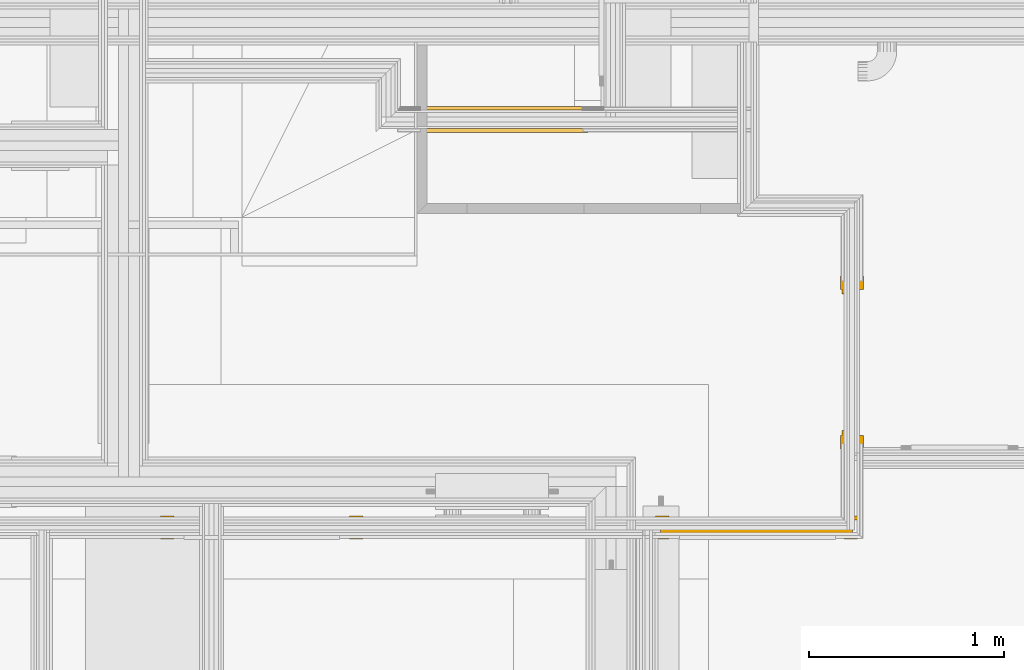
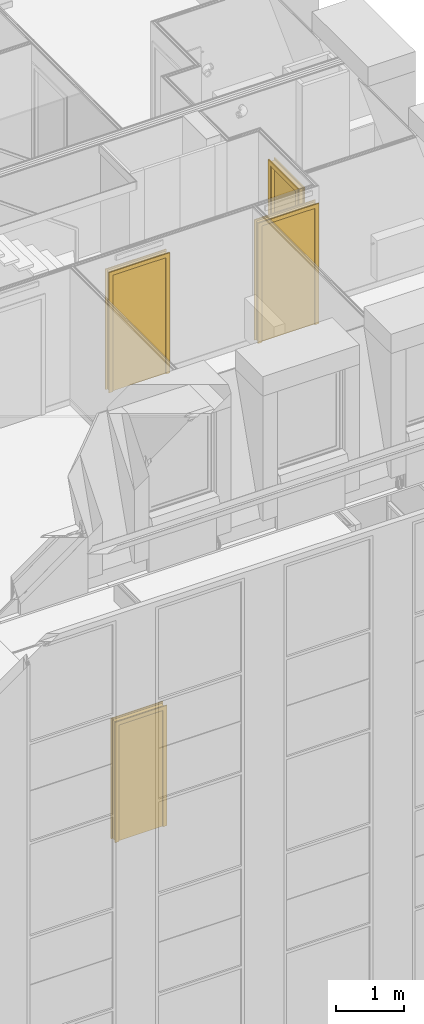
# One storey, part 128 of 169: 4 doors.
"""IFC2X3 building model written with IfcOpenShell, lengths in metres."""

from ifc_helpers import new_model, entity, si_unit, converted_unit, derived_unit, money_unit, direction, frame, origin_with_axes, place, context, subcontext, project, spatial, faceted_brep, material, type_object, element, save


model = new_model("IFC2X3")

# Units and contexts
model_context = context("Model", 3, precision=1e-05, world=origin_with_axes(), true_north=direction((0.0, 1.0)))
body_context = subcontext(model_context, "Body", "Model", "MODEL_VIEW", scale=1.0)
ifc_project = project(units=[si_unit("LENGTHUNIT", "METRE"), si_unit("AREAUNIT", "SQUARE_METRE"), si_unit("VOLUMEUNIT", "CUBIC_METRE"), si_unit("ABSORBEDDOSEUNIT", "GRAY"), si_unit("AMOUNTOFSUBSTANCEUNIT", "MOLE"), si_unit("DOSEEQUIVALENTUNIT", "SIEVERT"), si_unit("ELECTRICCAPACITANCEUNIT", "FARAD"), si_unit("ELECTRICCHARGEUNIT", "COULOMB"), si_unit("ELECTRICCONDUCTANCEUNIT", "SIEMENS"), si_unit("ELECTRICCURRENTUNIT", "AMPERE"), si_unit("ELECTRICRESISTANCEUNIT", "OHM"), si_unit("ELECTRICVOLTAGEUNIT", "VOLT"), si_unit("ENERGYUNIT", "JOULE"), si_unit("FORCEUNIT", "NEWTON"), si_unit("FREQUENCYUNIT", "HERTZ"), si_unit("ILLUMINANCEUNIT", "LUX"), si_unit("INDUCTANCEUNIT", "HENRY"), si_unit("LUMINOUSFLUXUNIT", "LUMEN"), si_unit("LUMINOUSINTENSITYUNIT", "CANDELA"), si_unit("MAGNETICFLUXDENSITYUNIT", "TESLA"), si_unit("MAGNETICFLUXUNIT", "WEBER"), si_unit("MASSUNIT", "GRAM"), converted_unit("PLANEANGLEUNIT", "degree", entity("IfcReal", 0.0174532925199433), si_unit("PLANEANGLEUNIT", "RADIAN"), dimensions=[0, 0, 0, 0, 0, 0, 0]), si_unit("POWERUNIT", "WATT"), si_unit("PRESSUREUNIT", "PASCAL"), si_unit("RADIOACTIVITYUNIT", "BECQUEREL"), si_unit("SOLIDANGLEUNIT", "STERADIAN"), si_unit("THERMODYNAMICTEMPERATUREUNIT", "KELVIN"), si_unit("TIMEUNIT", "SECOND"), derived_unit("ACCELERATIONUNIT", [(si_unit("LENGTHUNIT", "METRE"), 1), (si_unit("TIMEUNIT", "SECOND"), -2)]), derived_unit("ANGULARVELOCITYUNIT", [(converted_unit("PLANEANGLEUNIT", "degree", entity("IfcReal", 0.0174532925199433), si_unit("PLANEANGLEUNIT", "RADIAN"), dimensions=[0, 0, 0, 0, 0, 0, 0]), 1), (si_unit("TIMEUNIT", "SECOND"), -1)]), derived_unit("CURVATUREUNIT", [(converted_unit("PLANEANGLEUNIT", "degree", entity("IfcReal", 0.0174532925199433), si_unit("PLANEANGLEUNIT", "RADIAN"), dimensions=[0, 0, 0, 0, 0, 0, 0]), 1), (si_unit("LENGTHUNIT", "METRE"), -1)]), derived_unit("DYNAMICVISCOSITYUNIT", [(si_unit("PRESSUREUNIT", "PASCAL"), 1), (si_unit("TIMEUNIT", "SECOND"), 1)]), derived_unit("HEATFLUXDENSITYUNIT", [(si_unit("POWERUNIT", "WATT"), 1), (si_unit("LENGTHUNIT", "METRE"), -2)]), derived_unit("HEATINGVALUEUNIT", [(si_unit("ENERGYUNIT", "JOULE"), 1), (si_unit("MASSUNIT", "GRAM"), -1)]), derived_unit("INTEGERCOUNTRATEUNIT", [(si_unit("TIMEUNIT", "SECOND"), -1)]), derived_unit("IONCONCENTRATIONUNIT", [(si_unit("MASSUNIT", "GRAM"), 1), (si_unit("VOLUMEUNIT", "CUBIC_METRE"), -1)]), derived_unit("ISOTHERMALMOISTURECAPACITYUNIT", [(si_unit("VOLUMEUNIT", "CUBIC_METRE"), 1), (si_unit("MASSUNIT", "GRAM"), -1)]), derived_unit("KINEMATICVISCOSITYUNIT", [(si_unit("AREAUNIT", "SQUARE_METRE"), 1), (si_unit("TIMEUNIT", "SECOND"), -1)]), derived_unit("LINEARFORCEUNIT", [(si_unit("FORCEUNIT", "NEWTON"), 1), (si_unit("LENGTHUNIT", "METRE"), -1)]), derived_unit("LINEARMOMENTUNIT", [(si_unit("FORCEUNIT", "NEWTON"), 1), (si_unit("LENGTHUNIT", "METRE"), -1)]), derived_unit("LINEARSTIFFNESSUNIT", [(si_unit("FORCEUNIT", "NEWTON"), 1), (si_unit("LENGTHUNIT", "METRE"), -1)]), derived_unit("LINEARVELOCITYUNIT", [(si_unit("LENGTHUNIT", "METRE"), 1), (si_unit("TIMEUNIT", "SECOND"), -1)]), derived_unit("LUMINOUSINTENSITYDISTRIBUTIONUNIT", [(si_unit("LUMINOUSINTENSITYUNIT", "CANDELA"), 1), (si_unit("LUMINOUSFLUXUNIT", "LUMEN"), -1)]), derived_unit("MASSDENSITYUNIT", [(si_unit("MASSUNIT", "GRAM"), 1), (si_unit("VOLUMEUNIT", "CUBIC_METRE"), -1)]), derived_unit("MASSFLOWRATEUNIT", [(si_unit("MASSUNIT", "GRAM"), 1), (si_unit("TIMEUNIT", "SECOND"), -1)]), derived_unit("MASSPERLENGTHUNIT", [(si_unit("MASSUNIT", "GRAM"), 1), (si_unit("LENGTHUNIT", "METRE"), -1)]), derived_unit("MODULUSOFELASTICITYUNIT", [(si_unit("FORCEUNIT", "NEWTON"), 1), (si_unit("AREAUNIT", "SQUARE_METRE"), -1)]), derived_unit("MODULUSOFLINEARSUBGRADEREACTIONUNIT", [(si_unit("FORCEUNIT", "NEWTON"), 1), (si_unit("LENGTHUNIT", "METRE"), -2)]), derived_unit("MODULUSOFROTATIONALSUBGRADEREACTIONUNIT", [(si_unit("FORCEUNIT", "NEWTON"), 1), (si_unit("LENGTHUNIT", "METRE"), 1)]), derived_unit("MODULUSOFSUBGRADEREACTIONUNIT", [(si_unit("FORCEUNIT", "NEWTON"), 1), (si_unit("VOLUMEUNIT", "CUBIC_METRE"), -1)]), derived_unit("MOISTUREDIFFUSIVITYUNIT", [(si_unit("VOLUMEUNIT", "CUBIC_METRE"), 1), (si_unit("TIMEUNIT", "SECOND"), -1)]), derived_unit("MOLECULARWEIGHTUNIT", [(si_unit("MASSUNIT", "GRAM"), 1), (si_unit("AMOUNTOFSUBSTANCEUNIT", "MOLE"), -1)]), derived_unit("PLANARFORCEUNIT", [(si_unit("FORCEUNIT", "NEWTON"), 1), (si_unit("LENGTHUNIT", "METRE"), -2)]), derived_unit("ROTATIONALFREQUENCYUNIT", [(si_unit("TIMEUNIT", "SECOND"), -1)]), derived_unit("ROTATIONALMASSUNIT", [(si_unit("MASSUNIT", "GRAM"), 1), (si_unit("LENGTHUNIT", "METRE"), 2)]), derived_unit("ROTATIONALSTIFFNESSUNIT", [(si_unit("FORCEUNIT", "NEWTON"), 1), (si_unit("LENGTHUNIT", "METRE"), 1), (converted_unit("PLANEANGLEUNIT", "degree", entity("IfcReal", 0.0174532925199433), si_unit("PLANEANGLEUNIT", "RADIAN"), dimensions=[0, 0, 0, 0, 0, 0, 0]), -1)]), derived_unit("SECTIONAREAINTEGRALUNIT", [(si_unit("LENGTHUNIT", "METRE"), 5)]), derived_unit("SECTIONMODULUSUNIT", [(si_unit("LENGTHUNIT", "METRE"), 3)]), derived_unit("SHEARMODULUSUNIT", [(si_unit("FORCEUNIT", "NEWTON"), 1), (si_unit("AREAUNIT", "SQUARE_METRE"), -1)]), derived_unit("SOUNDPOWERUNIT", [(si_unit("ENERGYUNIT", "JOULE"), 1), (si_unit("TIMEUNIT", "SECOND"), -1)]), derived_unit("SPECIFICHEATCAPACITYUNIT", [(si_unit("FORCEUNIT", "NEWTON"), 1), (si_unit("MASSUNIT", "GRAM"), -1), (si_unit("THERMODYNAMICTEMPERATUREUNIT", "KELVIN"), -1)]), derived_unit("TEMPERATUREGRADIENTUNIT", [(si_unit("THERMODYNAMICTEMPERATUREUNIT", "KELVIN"), 1), (si_unit("LENGTHUNIT", "METRE"), -1)]), derived_unit("THERMALADMITTANCEUNIT", [(si_unit("POWERUNIT", "WATT"), 1), (si_unit("AREAUNIT", "SQUARE_METRE"), -1), (si_unit("THERMODYNAMICTEMPERATUREUNIT", "KELVIN"), -1)]), derived_unit("THERMALCONDUCTANCEUNIT", [(si_unit("POWERUNIT", "WATT"), 1), (si_unit("LENGTHUNIT", "METRE"), -1), (si_unit("THERMODYNAMICTEMPERATUREUNIT", "KELVIN"), -1)]), derived_unit("THERMALEXPANSIONCOEFFICIENTUNIT", [(si_unit("THERMODYNAMICTEMPERATUREUNIT", "KELVIN"), -1)]), derived_unit("THERMALRESISTANCEUNIT", [(si_unit("AREAUNIT", "SQUARE_METRE"), 1), (si_unit("POWERUNIT", "WATT"), -1)]), derived_unit("THERMALTRANSMITTANCEUNIT", [(si_unit("POWERUNIT", "WATT"), 1), (si_unit("AREAUNIT", "SQUARE_METRE"), -1), (si_unit("THERMODYNAMICTEMPERATUREUNIT", "KELVIN"), -1)]), derived_unit("TORQUEUNIT", [(si_unit("FORCEUNIT", "NEWTON"), 1), (si_unit("LENGTHUNIT", "METRE"), 1)]), derived_unit("VAPORPERMEABILITYUNIT", [(si_unit("MASSUNIT", "GRAM"), 1), (si_unit("TIMEUNIT", "SECOND"), -1)]), derived_unit("VOLUMETRICFLOWRATEUNIT", [(si_unit("VOLUMEUNIT", "CUBIC_METRE"), 1), (si_unit("TIMEUNIT", "SECOND"), -1)]), derived_unit("WARPINGCONSTANTUNIT", [(si_unit("LENGTHUNIT", "METRE"), 6)]), derived_unit("WARPINGMOMENTUNIT", [(si_unit("FORCEUNIT", "NEWTON"), 1), (si_unit("LENGTHUNIT", "METRE"), 2)]), money_unit("GBP")], contexts=[model_context])

# Site, building, storey, space
site_placement = place(None, origin_with_axes())
site = spatial("IfcSite", under=ifc_project, at=site_placement, Name="Site", CompositionType="ELEMENT")
building_placement = place(site_placement, origin_with_axes())
building = spatial("IfcBuilding", under=site, at=building_placement, Name="Building01", CompositionType="ELEMENT")
storey_placement = place(building_placement, frame((0.0, 0.0, 5.15), z_axis=(0.0, 0.0, 1.0), x_axis=(1.0, 0.0, 0.0)))
storey = spatial("IfcBuildingStorey", under=building, at=storey_placement, Name="1F", CompositionType="ELEMENT", Elevation=5.15)
space_1_placement = place(storey_placement, frame((17.73844, 7.349915, 9.86), z_axis=(0.0, 0.0, 1.0), x_axis=(0.0, -1.0, 0.0)))
space_1 = spatial("IfcSpace", under=storey, at=space_1_placement, Name="24", CompositionType="ELEMENT", InteriorOrExteriorSpace="NOTDEFINED")

# Doors
ifc_material = material(Name="A_BSUK_Doors")
door_style_1 = type_object("IfcDoorStyle", Name="A-Doors-SingleFlush", ConstructionType="USERDEFINED", OperationType="SINGLE_SWING_RIGHT", ParameterTakesPrecedence=False, Sizeable=False)
door_1_placement = place(storey_placement, frame((23.71, 4.817, 9.83), z_axis=(0.0, 0.0, 1.0), x_axis=(-1.0, 0.0, 0.0)))
element("IfcDoor", 1, at=door_1_placement, inside=space_1, type_object=door_style_1, material=ifc_material, Name="4.14", ObjectType="A-Doors-SingleFlush", OverallHeight=2.16900000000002, OverallWidth=1.03800000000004, context=body_context, shape_type="Brep", body=[
    faceted_brep([(0.9, -0.099, 0.0), (0.969, -0.099, 0.0), (0.969, -0.099, 2.169), (-0.069, -0.099, 2.169), (-0.069, -0.099, 0.0), (0.0, -0.099, 0.0), (0.0, -0.099, 2.1), (0.9, -0.099, 2.1), (-0.069, -0.08, 0.0), (-0.069, -0.08, 2.169), (0.969, -0.08, 2.169), (0.969, -0.08, 0.0), (0.9, 0.019, 0.0), (0.969, 0.019, 0.0), (0.969, 0.0, 0.0), (0.942, 0.0, 0.0), (0.942, -0.08, 0.0), (0.9, 0.019, 2.1), (0.0, 0.019, 2.1), (0.0, 0.019, 0.0), (-0.069, 0.019, 0.0), (-0.069, 0.019, 2.169), (0.969, 0.019, 2.169), (0.969, 0.0, 2.169), (0.942, -0.08, 2.142), (0.942, 0.0, 2.142), (-0.042, -0.08, 2.142), (-0.042, 0.0, 2.142), (-0.042, -0.08, 0.0), (-0.042, 0.0, 0.0), (-0.069, 0.0, 2.169), (-0.069, 0.0, 0.0)], [[[0, 1, 2, 3, 4, 5, 6, 7]], [[8, 4, 3, 9]], [[10, 2, 1, 11]], [[9, 3, 2, 10]], [[12, 13, 14, 15, 16, 11, 1, 0]], [[7, 17, 12, 0]], [[6, 18, 17, 7]], [[18, 19, 20, 21, 22, 13, 12, 17]], [[5, 19, 18, 6]], [[13, 22, 23, 14]], [[24, 16, 15, 25]], [[26, 24, 25, 27]], [[11, 16, 24, 26, 28, 8, 9, 10]], [[27, 29, 28, 26]], [[25, 15, 14, 23, 30, 31, 29, 27]], [[5, 4, 8, 28, 29, 31, 20, 19]], [[30, 21, 20, 31]], [[23, 22, 21, 30]]]),
    faceted_brep([(0.0, -0.09, 2.1), (0.0, -0.04, 2.1), (0.0, -0.04, 0.0), (0.0, -0.09, 0.0), (0.875, -0.09, 0.0), (0.9, -0.09, 0.0), (0.9, -0.09, 2.1), (0.025, -0.09, 0.0), (0.025, -0.09, 2.075), (0.875, -0.09, 2.075), (0.875, -0.04, 0.0), (0.9, -0.04, 0.0), (0.9, -0.04, 2.1), (0.025, -0.04, 2.075), (0.025, -0.04, 0.0), (0.875, -0.04, 2.075)], [[[0, 1, 2, 3]], [[4, 5, 6, 0, 3, 7, 8, 9]], [[10, 11, 5, 4]], [[6, 12, 1, 0]], [[5, 11, 12, 6]], [[13, 14, 2, 1, 12, 11, 10, 15]], [[7, 14, 13, 8]], [[7, 3, 2, 14]], [[9, 15, 10, 4]], [[8, 13, 15, 9]]]),
    faceted_brep([(0.9, -0.04, 0.0), (0.9, 0.0, 0.0), (0.9, 0.0, 2.1), (0.9, -0.04, 2.1), (0.0, -0.04, 2.1), (0.0, 0.0, 2.1), (0.0, 0.0, 0.0), (0.0, -0.04, 0.0)], [[[0, 1, 2, 3]], [[4, 5, 6, 7]], [[7, 6, 1, 0]], [[3, 4, 7, 0]], [[3, 2, 5, 4]], [[1, 6, 5, 2]]]),
])
door_2_placement = place(storey_placement, frame((21.169976, 4.817, 9.83), z_axis=(0.0, 0.0, 1.0), x_axis=(-1.0, 0.0, 0.0)))
element("IfcDoor", 2, at=door_2_placement, inside=space_1, type_object=door_style_1, material=ifc_material, Name="4.15", ObjectType="A-Doors-SingleFlush", OverallHeight=2.16900000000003, OverallWidth=1.03800000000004, context=body_context, shape_type="Brep", body=[
    faceted_brep([(0.9, -0.099, 0.0), (0.969, -0.099, 0.0), (0.969, -0.099, 2.169), (-0.069, -0.099, 2.169), (-0.069, -0.099, 0.0), (0.0, -0.099, 0.0), (0.0, -0.099, 2.1), (0.9, -0.099, 2.1), (-0.069, -0.08, 0.0), (-0.069, -0.08, 2.169), (0.969, -0.08, 2.169), (0.969, -0.08, 0.0), (0.9, 0.019, 0.0), (0.969, 0.019, 0.0), (0.969, 0.0, 0.0), (0.942, 0.0, 0.0), (0.942, -0.08, 0.0), (0.9, 0.019, 2.1), (0.0, 0.019, 2.1), (0.0, 0.019, 0.0), (-0.069, 0.019, 0.0), (-0.069, 0.019, 2.169), (0.969, 0.019, 2.169), (0.969, 0.0, 2.169), (0.942, -0.08, 2.142), (0.942, 0.0, 2.142), (-0.042, -0.08, 2.142), (-0.042, 0.0, 2.142), (-0.042, -0.08, 0.0), (-0.042, 0.0, 0.0), (-0.069, 0.0, 2.169), (-0.069, 0.0, 0.0)], [[[0, 1, 2, 3, 4, 5, 6, 7]], [[8, 4, 3, 9]], [[10, 2, 1, 11]], [[9, 3, 2, 10]], [[12, 13, 14, 15, 16, 11, 1, 0]], [[7, 17, 12, 0]], [[6, 18, 17, 7]], [[18, 19, 20, 21, 22, 13, 12, 17]], [[5, 19, 18, 6]], [[13, 22, 23, 14]], [[24, 16, 15, 25]], [[26, 24, 25, 27]], [[11, 16, 24, 26, 28, 8, 9, 10]], [[27, 29, 28, 26]], [[25, 15, 14, 23, 30, 31, 29, 27]], [[5, 4, 8, 28, 29, 31, 20, 19]], [[30, 21, 20, 31]], [[23, 22, 21, 30]]]),
    faceted_brep([(0.0, -0.09, 2.1), (0.0, -0.04, 2.1), (0.0, -0.04, 0.0), (0.0, -0.09, 0.0), (0.875, -0.09, 0.0), (0.9, -0.09, 0.0), (0.9, -0.09, 2.1), (0.025, -0.09, 0.0), (0.025, -0.09, 2.075), (0.875, -0.09, 2.075), (0.875, -0.04, 0.0), (0.9, -0.04, 0.0), (0.9, -0.04, 2.1), (0.025, -0.04, 2.075), (0.025, -0.04, 0.0), (0.875, -0.04, 2.075)], [[[0, 1, 2, 3]], [[4, 5, 6, 0, 3, 7, 8, 9]], [[10, 11, 5, 4]], [[6, 12, 1, 0]], [[5, 11, 12, 6]], [[13, 14, 2, 1, 12, 11, 10, 15]], [[7, 14, 13, 8]], [[7, 3, 2, 14]], [[9, 15, 10, 4]], [[8, 13, 15, 9]]]),
    faceted_brep([(0.9, -0.04, 0.0), (0.9, 0.0, 0.0), (0.9, 0.0, 2.1), (0.9, -0.04, 2.1), (0.0, -0.04, 2.1), (0.0, 0.0, 2.1), (0.0, 0.0, 0.0), (0.0, -0.04, 0.0)], [[[0, 1, 2, 3]], [[4, 5, 6, 7]], [[7, 6, 1, 0]], [[3, 4, 7, 0]], [[3, 2, 5, 4]], [[1, 6, 5, 2]]]),
])
door_3_placement = place(storey_placement, frame((23.79, 6.080939, 9.83), z_axis=(0.0, 0.0, 1.0), x_axis=(0.0, -1.0, 0.0)))
element("IfcDoor", 3, at=door_3_placement, inside=space_1, type_object=door_style_1, material=ifc_material, Name="4.17", ObjectType="A-Doors-SingleFlush", OverallHeight=2.16900000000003, OverallWidth=0.88800000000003, context=body_context, shape_type="Brep", body=[
    faceted_brep([(0.75, -0.099, 0.0), (0.819, -0.099, 0.0), (0.819, -0.099, 2.169), (-0.069, -0.099, 2.169), (-0.069, -0.099, 0.0), (0.0, -0.099, 0.0), (0.0, -0.099, 2.1), (0.75, -0.099, 2.1), (-0.069, -0.08, 0.0), (-0.069, -0.08, 2.169), (0.819, -0.08, 2.169), (0.819, -0.08, 0.0), (0.75, 0.019, 0.0), (0.819, 0.019, 0.0), (0.819, 0.0, 0.0), (0.792, 0.0, 0.0), (0.792, -0.08, 0.0), (0.75, 0.019, 2.1), (0.0, 0.019, 2.1), (0.0, 0.019, 0.0), (-0.069, 0.019, 0.0), (-0.069, 0.019, 2.169), (0.819, 0.019, 2.169), (0.819, 0.0, 2.169), (0.792, -0.08, 2.142), (0.792, 0.0, 2.142), (-0.042, -0.08, 2.142), (-0.042, 0.0, 2.142), (-0.042, -0.08, 0.0), (-0.042, 0.0, 0.0), (-0.069, 0.0, 2.169), (-0.069, 0.0, 0.0)], [[[0, 1, 2, 3, 4, 5, 6, 7]], [[8, 4, 3, 9]], [[10, 2, 1, 11]], [[9, 3, 2, 10]], [[12, 13, 14, 15, 16, 11, 1, 0]], [[7, 17, 12, 0]], [[6, 18, 17, 7]], [[18, 19, 20, 21, 22, 13, 12, 17]], [[5, 19, 18, 6]], [[13, 22, 23, 14]], [[24, 16, 15, 25]], [[26, 24, 25, 27]], [[11, 16, 24, 26, 28, 8, 9, 10]], [[27, 29, 28, 26]], [[25, 15, 14, 23, 30, 31, 29, 27]], [[5, 4, 8, 28, 29, 31, 20, 19]], [[30, 21, 20, 31]], [[23, 22, 21, 30]]]),
    faceted_brep([(0.0, -0.09, 2.1), (0.0, -0.04, 2.1), (0.0, -0.04, 0.0), (0.0, -0.09, 0.0), (0.725, -0.09, 0.0), (0.75, -0.09, 0.0), (0.75, -0.09, 2.1), (0.025, -0.09, 0.0), (0.025, -0.09, 2.075), (0.725, -0.09, 2.075), (0.725, -0.04, 0.0), (0.75, -0.04, 0.0), (0.75, -0.04, 2.1), (0.025, -0.04, 2.075), (0.025, -0.04, 0.0), (0.725, -0.04, 2.075)], [[[0, 1, 2, 3]], [[4, 5, 6, 0, 3, 7, 8, 9]], [[10, 11, 5, 4]], [[6, 12, 1, 0]], [[5, 11, 12, 6]], [[13, 14, 2, 1, 12, 11, 10, 15]], [[7, 14, 13, 8]], [[7, 3, 2, 14]], [[9, 15, 10, 4]], [[8, 13, 15, 9]]]),
    faceted_brep([(0.75, -0.04, 0.0), (0.75, 0.0, 0.0), (0.75, 0.0, 2.1), (0.75, -0.04, 2.1), (0.0, -0.04, 2.1), (0.0, 0.0, 2.1), (0.0, 0.0, 0.0), (0.0, -0.04, 0.0)], [[[0, 1, 2, 3]], [[4, 5, 6, 7]], [[7, 6, 1, 0]], [[3, 4, 7, 0]], [[3, 2, 5, 4]], [[1, 6, 5, 2]]]),
])

# Space
space_2_placement = place(storey_placement, frame((20.122661, 5.205, 0.017975), z_axis=(0.0, 0.0, 1.0), x_axis=(1.0, 0.0, 0.0)))
space_2 = spatial("IfcSpace", under=storey, at=space_2_placement, Name="03", CompositionType="ELEMENT", InteriorOrExteriorSpace="NOTDEFINED")

# Door
door_style_2 = type_object("IfcDoorStyle", Name="A-Doors-SingleFlush", ConstructionType="USERDEFINED", OperationType="SINGLE_SWING_RIGHT", ParameterTakesPrecedence=False, Sizeable=False)
door_4_placement = place(storey_placement, frame((22.326661, 6.905, 0.0), z_axis=(0.0, 0.0, 1.0), x_axis=(-1.0, 0.0, 0.0)))
element("IfcDoor", 4, at=door_4_placement, inside=space_2, type_object=door_style_2, material=ifc_material, Name="1.11", ObjectType="A-Doors-SingleFlush", OverallHeight=2.16900000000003, OverallWidth=0.888000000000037, context=body_context, shape_type="Brep", body=[
    faceted_brep([(0.75, -0.114, 0.0), (0.819, -0.114, 0.0), (0.819, -0.114, 2.169), (-0.069, -0.114, 2.169), (-0.069, -0.114, 0.0), (0.0, -0.114, 0.0), (0.0, -0.114, 2.1), (0.75, -0.114, 2.1), (-0.069, -0.095, 0.0), (-0.069, -0.095, 2.169), (0.819, -0.095, 2.169), (0.819, -0.095, 0.0), (0.75, 0.019, 0.0), (0.819, 0.019, 0.0), (0.819, 0.0, 0.0), (0.792, 0.0, 0.0), (0.792, -0.095, 0.0), (0.75, 0.019, 2.1), (0.0, 0.019, 2.1), (0.0, 0.019, 0.0), (-0.069, 0.019, 0.0), (-0.069, 0.019, 2.169), (0.819, 0.019, 2.169), (0.819, 0.0, 2.169), (0.792, -0.095, 2.142), (0.792, 0.0, 2.142), (-0.042, -0.095, 2.142), (-0.042, 0.0, 2.142), (-0.042, -0.095, 0.0), (-0.042, 0.0, 0.0), (-0.069, 0.0, 2.169), (-0.069, 0.0, 0.0)], [[[0, 1, 2, 3, 4, 5, 6, 7]], [[8, 4, 3, 9]], [[10, 2, 1, 11]], [[9, 3, 2, 10]], [[12, 13, 14, 15, 16, 11, 1, 0]], [[7, 17, 12, 0]], [[6, 18, 17, 7]], [[18, 19, 20, 21, 22, 13, 12, 17]], [[5, 19, 18, 6]], [[13, 22, 23, 14]], [[24, 16, 15, 25]], [[26, 24, 25, 27]], [[11, 16, 24, 26, 28, 8, 9, 10]], [[27, 29, 28, 26]], [[25, 15, 14, 23, 30, 31, 29, 27]], [[5, 4, 8, 28, 29, 31, 20, 19]], [[30, 21, 20, 31]], [[23, 22, 21, 30]]]),
    faceted_brep([(0.0, -0.09, 2.1), (0.0, -0.04, 2.1), (0.0, -0.04, 0.0), (0.0, -0.09, 0.0), (0.725, -0.09, 0.0), (0.75, -0.09, 0.0), (0.75, -0.09, 2.1), (0.025, -0.09, 0.0), (0.025, -0.09, 2.075), (0.725, -0.09, 2.075), (0.725, -0.04, 0.0), (0.75, -0.04, 0.0), (0.75, -0.04, 2.1), (0.025, -0.04, 2.075), (0.025, -0.04, 0.0), (0.725, -0.04, 2.075)], [[[0, 1, 2, 3]], [[4, 5, 6, 0, 3, 7, 8, 9]], [[10, 11, 5, 4]], [[6, 12, 1, 0]], [[5, 11, 12, 6]], [[13, 14, 2, 1, 12, 11, 10, 15]], [[7, 14, 13, 8]], [[7, 3, 2, 14]], [[9, 15, 10, 4]], [[8, 13, 15, 9]]]),
    faceted_brep([(0.75, -0.04, 0.0), (0.75, 0.0, 0.0), (0.75, 0.0, 2.1), (0.75, -0.04, 2.1), (0.0, -0.04, 2.1), (0.0, 0.0, 2.1), (0.0, 0.0, 0.0), (0.0, -0.04, 0.0)], [[[0, 1, 2, 3]], [[4, 5, 6, 7]], [[7, 6, 1, 0]], [[3, 4, 7, 0]], [[3, 2, 5, 4]], [[1, 6, 5, 2]]]),
])

save(model, "model.ifc")
